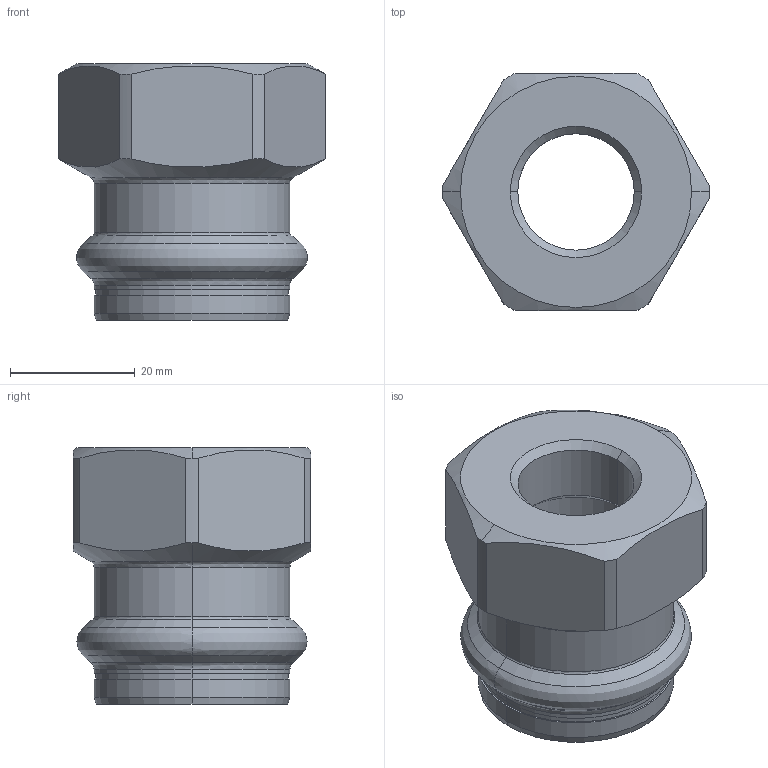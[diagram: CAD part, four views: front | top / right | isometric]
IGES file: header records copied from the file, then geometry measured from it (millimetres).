
Start section: Elysium IGES Interface
Global section: file name: C:\3d modellen sudo\C-Pr VP\SP8270GV\8270GVW2812.igs; native system: CoCreate Modeling 17.00A  17-Jun-2010; preprocessor: CoCreate IGES_3D V2.2; author: Unknown; organization: Unknown; date: 20130305.111005; units: millimetre
Bounding box: 42.7 x 38 x 41 mm (x, y, z)
Volume: 20598.7 mm3; surface area: 9786.3 mm2
Topology: 1 solids, 1 shells, 62 faces, 144 edges, 82 vertices
Faces by surface type: bspline 62
